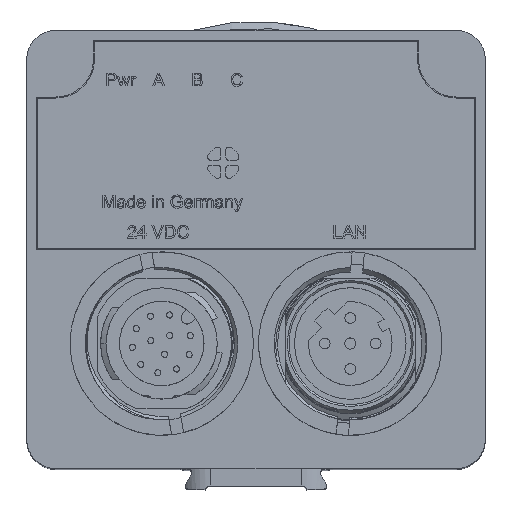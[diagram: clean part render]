
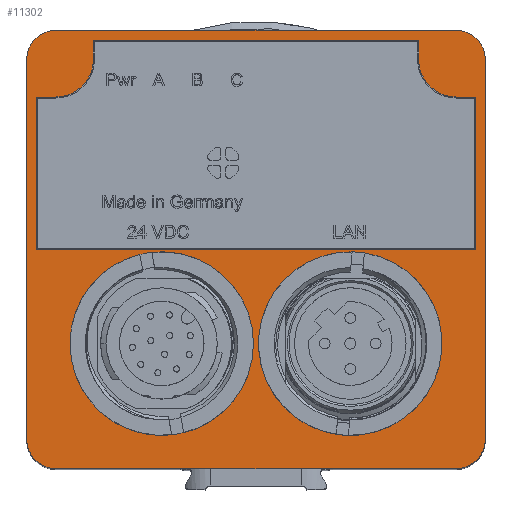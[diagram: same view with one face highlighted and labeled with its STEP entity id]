
A CAD part, top view. The second image highlights one B-rep face of the part: STEP entity #11302.
In plain terms, the highlighted planar face has unit normal (0, 0, 1).
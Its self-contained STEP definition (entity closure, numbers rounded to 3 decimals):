
#104=FACE_BOUND('',#1757,.T.);
#105=FACE_BOUND('',#1758,.T.);
#106=FACE_BOUND('',#1759,.T.);
#762=CIRCLE('',#11903,9.);
#768=CIRCLE('',#11923,2.85);
#770=CIRCLE('',#11929,2.85);
#772=CIRCLE('',#11932,2.85);
#774=CIRCLE('',#11937,2.85);
#777=CIRCLE('',#11942,3.7);
#779=CIRCLE('',#11947,3.7);
#785=CIRCLE('',#11958,9.);
#1180=FACE_OUTER_BOUND('',#1756,.T.);
#1756=EDGE_LOOP('',(#7901,#7902,#7903,#7904,#7905,#7906,#7907,#7908));
#1757=EDGE_LOOP('',(#7909));
#1758=EDGE_LOOP('',(#7910,#7911,#7912,#7913,#7914,#7915,#7916,#7917,#7918,
#7919));
#1759=EDGE_LOOP('',(#7920));
#2419=LINE('',#18377,#3393);
#2423=LINE('',#18385,#3397);
#2428=LINE('',#18395,#3402);
#2432=LINE('',#18403,#3406);
#2436=LINE('',#18416,#3410);
#2439=LINE('',#18422,#3413);
#2442=LINE('',#18428,#3416);
#2447=LINE('',#18446,#3421);
#2450=LINE('',#18452,#3424);
#2456=LINE('',#18467,#3430);
#2461=LINE('',#18480,#3435);
#2466=LINE('',#18490,#3440);
#3393=VECTOR('',#13081,10.);
#3397=VECTOR('',#13087,10.);
#3402=VECTOR('',#13094,10.);
#3406=VECTOR('',#13100,10.);
#3410=VECTOR('',#13112,10.);
#3413=VECTOR('',#13117,10.);
#3416=VECTOR('',#13122,10.);
#3421=VECTOR('',#13141,10.);
#3424=VECTOR('',#13146,10.);
#3430=VECTOR('',#13160,10.);
#3435=VECTOR('',#13173,10.);
#3440=VECTOR('',#13180,10.);
#4445=VERTEX_POINT('',#17876);
#4467=VERTEX_POINT('',#18374);
#4468=VERTEX_POINT('',#18376);
#4470=VERTEX_POINT('',#18382);
#4471=VERTEX_POINT('',#18384);
#4475=VERTEX_POINT('',#18394);
#4478=VERTEX_POINT('',#18401);
#4479=VERTEX_POINT('',#18406);
#4480=VERTEX_POINT('',#18407);
#4483=VERTEX_POINT('',#18415);
#4485=VERTEX_POINT('',#18421);
#4487=VERTEX_POINT('',#18427);
#4489=VERTEX_POINT('',#18433);
#4491=VERTEX_POINT('',#18439);
#4493=VERTEX_POINT('',#18445);
#4495=VERTEX_POINT('',#18451);
#4500=VERTEX_POINT('',#18466);
#4502=VERTEX_POINT('',#18472);
#4508=VERTEX_POINT('',#18489);
#4522=VERTEX_POINT('',#18529);
#5797=EDGE_CURVE('',#4445,#4445,#762,.T.);
#5831=EDGE_CURVE('',#4468,#4467,#2419,.T.);
#5835=EDGE_CURVE('',#4471,#4470,#2423,.T.);
#5840=EDGE_CURVE('',#4470,#4475,#2428,.T.);
#5844=EDGE_CURVE('',#4475,#4478,#2432,.T.);
#5846=EDGE_CURVE('',#4479,#4480,#768,.T.);
#5850=EDGE_CURVE('',#4483,#4471,#2436,.T.);
#5853=EDGE_CURVE('',#4485,#4480,#2439,.T.);
#5856=EDGE_CURVE('',#4479,#4487,#2442,.T.);
#5859=EDGE_CURVE('',#4489,#4485,#770,.T.);
#5862=EDGE_CURVE('',#4487,#4491,#772,.T.);
#5865=EDGE_CURVE('',#4493,#4489,#2447,.T.);
#5868=EDGE_CURVE('',#4491,#4495,#2450,.T.);
#5871=EDGE_CURVE('',#4495,#4493,#774,.T.);
#5876=EDGE_CURVE('',#4500,#4483,#2456,.T.);
#5879=EDGE_CURVE('',#4502,#4500,#777,.T.);
#5883=EDGE_CURVE('',#4467,#4502,#2461,.T.);
#5888=EDGE_CURVE('',#4508,#4468,#2466,.T.);
#5891=EDGE_CURVE('',#4478,#4508,#779,.T.);
#5908=EDGE_CURVE('',#4522,#4522,#785,.T.);
#7901=ORIENTED_EDGE('',*,*,#5871,.T.);
#7902=ORIENTED_EDGE('',*,*,#5865,.T.);
#7903=ORIENTED_EDGE('',*,*,#5859,.T.);
#7904=ORIENTED_EDGE('',*,*,#5853,.T.);
#7905=ORIENTED_EDGE('',*,*,#5846,.F.);
#7906=ORIENTED_EDGE('',*,*,#5856,.T.);
#7907=ORIENTED_EDGE('',*,*,#5862,.T.);
#7908=ORIENTED_EDGE('',*,*,#5868,.T.);
#7909=ORIENTED_EDGE('',*,*,#5908,.T.);
#7910=ORIENTED_EDGE('',*,*,#5879,.T.);
#7911=ORIENTED_EDGE('',*,*,#5876,.T.);
#7912=ORIENTED_EDGE('',*,*,#5850,.T.);
#7913=ORIENTED_EDGE('',*,*,#5835,.T.);
#7914=ORIENTED_EDGE('',*,*,#5840,.T.);
#7915=ORIENTED_EDGE('',*,*,#5844,.T.);
#7916=ORIENTED_EDGE('',*,*,#5891,.T.);
#7917=ORIENTED_EDGE('',*,*,#5888,.T.);
#7918=ORIENTED_EDGE('',*,*,#5831,.T.);
#7919=ORIENTED_EDGE('',*,*,#5883,.T.);
#7920=ORIENTED_EDGE('',*,*,#5797,.F.);
#10895=PLANE('',#11957);
#11302=ADVANCED_FACE('',(#1180,#104,#105,#106),#10895,.F.);
#11903=AXIS2_PLACEMENT_3D('',#17878,#13032,#13033);
#11923=AXIS2_PLACEMENT_3D('',#18408,#13104,#13105);
#11929=AXIS2_PLACEMENT_3D('',#18434,#13127,#13128);
#11932=AXIS2_PLACEMENT_3D('',#18440,#13134,#13135);
#11937=AXIS2_PLACEMENT_3D('',#18457,#13151,#13152);
#11942=AXIS2_PLACEMENT_3D('',#18473,#13166,#13167);
#11947=AXIS2_PLACEMENT_3D('',#18494,#13186,#13187);
#11957=AXIS2_PLACEMENT_3D('',#18528,#13217,#13218);
#11958=AXIS2_PLACEMENT_3D('',#18530,#13219,#13220);
#13032=DIRECTION('center_axis',(0.,0.,1.));
#13033=DIRECTION('ref_axis',(0.174,-0.985,0.));
#13081=DIRECTION('',(1.,0.,0.));
#13087=DIRECTION('',(-1.,0.,0.));
#13094=DIRECTION('',(0.,1.,0.));
#13100=DIRECTION('',(1.,0.,0.));
#13104=DIRECTION('center_axis',(0.,0.,
-1.));
#13105=DIRECTION('ref_axis',(-0.707,-0.707,0.));
#13112=DIRECTION('',(0.,-1.,0.));
#13117=DIRECTION('',(0.,-1.,0.));
#13122=DIRECTION('',(1.,0.,0.));
#13127=DIRECTION('center_axis',(0.,0.,
1.));
#13128=DIRECTION('ref_axis',(-0.707,0.707,0.));
#13134=DIRECTION('center_axis',(0.,0.,
1.));
#13135=DIRECTION('ref_axis',(0.707,-0.707,0.));
#13141=DIRECTION('',(-1.,0.,0.));
#13146=DIRECTION('',(0.,1.,0.));
#13151=DIRECTION('center_axis',(0.,0.,
1.));
#13152=DIRECTION('ref_axis',(0.707,0.707,0.));
#13160=DIRECTION('',(1.,0.,0.));
#13166=DIRECTION('center_axis',(0.,0.,
1.));
#13167=DIRECTION('ref_axis',(1.,0.,0.));
#13173=DIRECTION('',(0.,-1.,0.));
#13180=DIRECTION('',(0.,1.,0.));
#13186=DIRECTION('center_axis',(0.,0.,
1.));
#13187=DIRECTION('ref_axis',(0.,1.,0.));
#13217=DIRECTION('center_axis',(0.,0.,
-1.));
#13218=DIRECTION('ref_axis',(-1.,0.,0.));
#13219=DIRECTION('center_axis',(0.,0.,
-1.));
#13220=DIRECTION('ref_axis',(0.087,0.996,0.));
#17876=CARTESIAN_POINT('',(-10.813,-0.387,70.97));
#17878=CARTESIAN_POINT('Origin',(-9.25,-9.25,70.97));
#18374=CARTESIAN_POINT('',(15.95,20.5,70.97));
#18376=CARTESIAN_POINT('',(-15.95,20.5,70.97));
#18377=CARTESIAN_POINT('',(-6.975,20.5,70.97));
#18382=CARTESIAN_POINT('',(-21.5,0.,70.97));
#18384=CARTESIAN_POINT('',(21.5,0.,70.97));
#18385=CARTESIAN_POINT('',(11.75,0.,70.97));
#18394=CARTESIAN_POINT('',(-21.5,14.95,70.97));
#18395=CARTESIAN_POINT('',(-21.5,0.,70.97));
#18401=CARTESIAN_POINT('',(-19.65,14.95,70.97));
#18403=CARTESIAN_POINT('',(-9.75,14.95,70.97));
#18406=CARTESIAN_POINT('',(-19.65,-21.5,70.97));
#18407=CARTESIAN_POINT('',(-22.5,-18.65,70.97));
#18408=CARTESIAN_POINT('Origin',(-19.65,-18.65,70.97));
#18415=CARTESIAN_POINT('',(21.5,14.95,70.97));
#18416=CARTESIAN_POINT('',(21.5,7.475,70.97));
#18421=CARTESIAN_POINT('',(-22.5,18.65,70.97));
#18422=CARTESIAN_POINT('',(-22.5,10.75,70.97));
#18427=CARTESIAN_POINT('',(19.65,-21.5,70.97));
#18428=CARTESIAN_POINT('',(-10.25,-21.5,70.97));
#18433=CARTESIAN_POINT('',(-19.65,21.5,70.97));
#18434=CARTESIAN_POINT('Origin',(-19.65,18.65,70.97));
#18439=CARTESIAN_POINT('',(22.5,-18.65,70.97));
#18440=CARTESIAN_POINT('Origin',(19.65,-18.65,70.97));
#18445=CARTESIAN_POINT('',(19.65,21.5,70.97));
#18446=CARTESIAN_POINT('',(14.25,21.5,70.97));
#18451=CARTESIAN_POINT('',(22.5,18.65,70.97));
#18452=CARTESIAN_POINT('',(22.5,-10.75,70.97));
#18457=CARTESIAN_POINT('Origin',(19.65,18.65,70.97));
#18466=CARTESIAN_POINT('',(19.65,14.95,70.97));
#18467=CARTESIAN_POINT('',(10.825,14.95,70.97));
#18472=CARTESIAN_POINT('',(15.95,18.65,70.97));
#18473=CARTESIAN_POINT('Origin',(19.65,18.65,70.97));
#18480=CARTESIAN_POINT('',(15.95,10.25,70.97));
#18489=CARTESIAN_POINT('',(-15.95,18.65,70.97));
#18490=CARTESIAN_POINT('',(-15.95,9.325,70.97));
#18494=CARTESIAN_POINT('Origin',(-19.65,18.65,70.97));
#18528=CARTESIAN_POINT('Origin',(19.65,18.65,70.97));
#18529=CARTESIAN_POINT('',(8.466,-18.216,70.97));
#18530=CARTESIAN_POINT('Origin',(9.25,-9.25,70.97));
